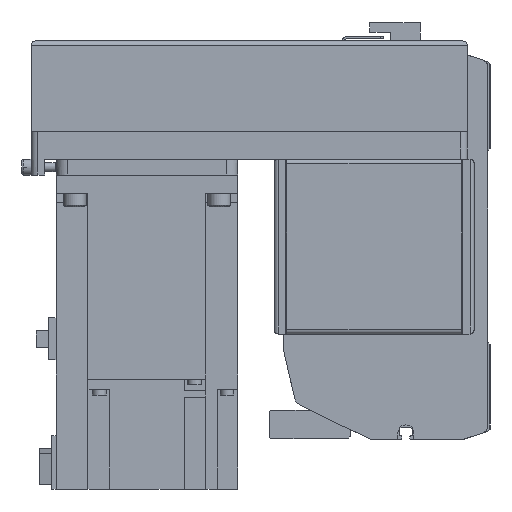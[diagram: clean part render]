
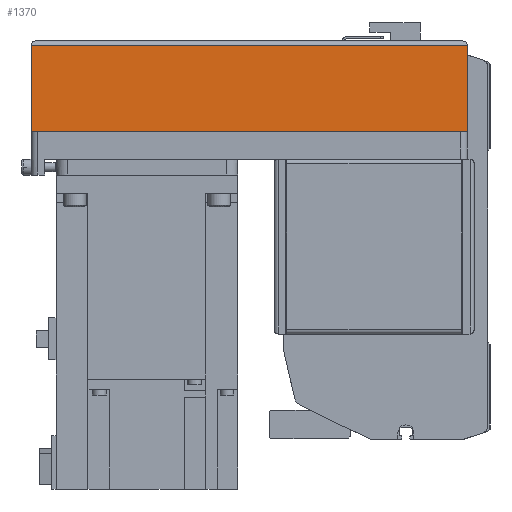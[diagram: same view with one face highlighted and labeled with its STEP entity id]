
A CAD part, left-side view. The second image highlights one B-rep face of the part: STEP entity #1370.
In plain terms, the highlighted planar face has unit normal (-1, 0, 0) as drawn and (0, 1, 0) by its records, which use the part's own axes.
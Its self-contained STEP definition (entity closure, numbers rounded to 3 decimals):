
#1370 = ADVANCED_FACE( '', ( #3487 ), #3488, .T. );
#3487 = FACE_OUTER_BOUND( '', #6547, .T. );
#3488 = PLANE( '', #6548 );
#6547 = EDGE_LOOP( '', ( #10431, #10432, #10433, #10434 ) );
#6548 = AXIS2_PLACEMENT_3D( '', #10435, #10436, #10437 );
#10431 = ORIENTED_EDGE( '', *, *, #18470, .F. );
#10432 = ORIENTED_EDGE( '', *, *, #18471, .F. );
#10433 = ORIENTED_EDGE( '', *, *, #18472, .T. );
#10434 = ORIENTED_EDGE( '', *, *, #18473, .T. );
#10435 = CARTESIAN_POINT( '', ( -192., 40., -50. ) );
#10436 = DIRECTION( '', ( 0., 1., 0. ) );
#10437 = DIRECTION( '', ( 0., 0., 1. ) );
#18470 = EDGE_CURVE( '', #22408, #22409, #22410, .T. );
#18471 = EDGE_CURVE( '', #22411, #22408, #22412, .T. );
#18472 = EDGE_CURVE( '', #22411, #22413, #22414, .T. );
#18473 = EDGE_CURVE( '', #22413, #22409, #22415, .T. );
#22408 = VERTEX_POINT( '', #27912 );
#22409 = VERTEX_POINT( '', #27913 );
#22410 = LINE( '', #27914, #27915 );
#22411 = VERTEX_POINT( '', #27916 );
#22412 = LINE( '', #27917, #27918 );
#22413 = VERTEX_POINT( '', #27919 );
#22414 = LINE( '', #27920, #27921 );
#22415 = LINE( '', #27922, #27923 );
#27912 = CARTESIAN_POINT( '', ( 0., 40., -50. ) );
#27913 = CARTESIAN_POINT( '', ( 0., 40., -12.1 ) );
#27914 = CARTESIAN_POINT( '', ( 0., 40., -50. ) );
#27915 = VECTOR( '', #33976, 1000. );
#27916 = CARTESIAN_POINT( '', ( -192., 40., -50. ) );
#27917 = CARTESIAN_POINT( '', ( -192., 40., -50. ) );
#27918 = VECTOR( '', #33977, 1000. );
#27919 = CARTESIAN_POINT( '', ( -192., 40., -12.1 ) );
#27920 = CARTESIAN_POINT( '', ( -192., 40., -50. ) );
#27921 = VECTOR( '', #33978, 1000. );
#27922 = CARTESIAN_POINT( '', ( -192., 40., -12.1 ) );
#27923 = VECTOR( '', #33979, 1000. );
#33976 = DIRECTION( '', ( 0., 0., 1. ) );
#33977 = DIRECTION( '', ( 1., 0., 0. ) );
#33978 = DIRECTION( '', ( 0., 0., 1. ) );
#33979 = DIRECTION( '', ( 1., 0., 0. ) );
